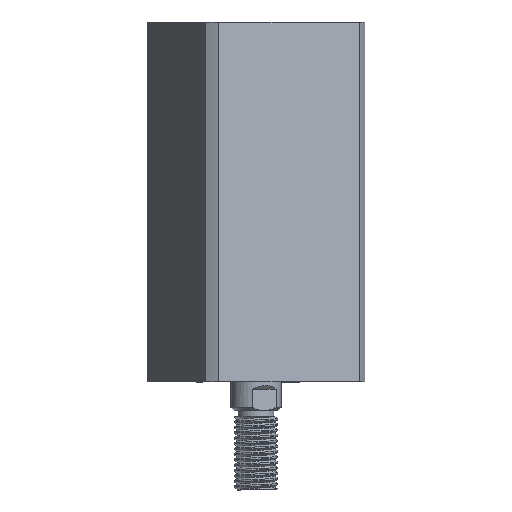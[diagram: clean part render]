
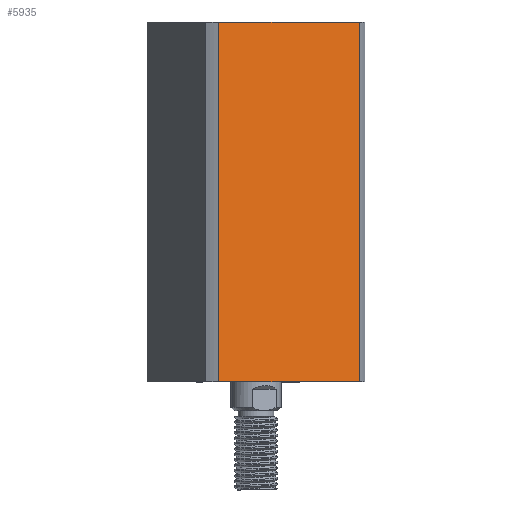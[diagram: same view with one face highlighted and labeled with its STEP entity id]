
A CAD part, left-side view. The second image highlights one B-rep face of the part: STEP entity #5935.
In plain terms, the highlighted planar face has unit normal (-0.924, -0.383, 0) as drawn and (1, 0, 0) by its records, which use the part's own axes.
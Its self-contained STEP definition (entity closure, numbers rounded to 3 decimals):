
#128 = DIRECTION ( 'NONE',  ( 0., 0., -1. ) ) ;
#196 = CARTESIAN_POINT ( 'NONE',  ( 24., 21.166, -500. ) ) ;
#302 = VERTEX_POINT ( 'NONE', #571 ) ;
#483 = DIRECTION ( 'NONE',  ( 0., 0., 1. ) ) ;
#571 = CARTESIAN_POINT ( 'NONE',  ( 24., -21.166, 0. ) ) ;
#968 = PLANE ( 'NONE',  #5829 ) ;
#1057 = VERTEX_POINT ( 'NONE', #8538 ) ;
#1756 = LINE ( 'NONE', #10483, #9621 ) ;
#1791 = DIRECTION ( 'NONE',  ( 0., -1., 0. ) ) ;
#2263 = EDGE_CURVE ( 'NONE', #1057, #2699, #10516, .T. ) ;
#2272 = EDGE_LOOP ( 'NONE', ( #6876, #8142, #10702, #5476 ) ) ;
#2699 = VERTEX_POINT ( 'NONE', #3033 ) ;
#2774 = FACE_OUTER_BOUND ( 'NONE', #2272, .T. ) ;
#3001 = DIRECTION ( 'NONE',  ( 0., 1., 0. ) ) ;
#3033 = CARTESIAN_POINT ( 'NONE',  ( 24., 21.166, 0. ) ) ;
#3300 = VECTOR ( 'NONE', #4357, 1000. ) ;
#3847 = CARTESIAN_POINT ( 'NONE',  ( 24., 24., 0. ) ) ;
#4357 = DIRECTION ( 'NONE',  ( 0., 1., 0. ) ) ;
#4733 = LINE ( 'NONE', #8504, #3300 ) ;
#5476 = ORIENTED_EDGE ( 'NONE', *, *, #5962, .F. ) ;
#5829 = AXIS2_PLACEMENT_3D ( 'NONE', #10768, #6786, #1791 ) ;
#5935 = ADVANCED_FACE ( 'NONE', ( #2774 ), #968, .F. ) ;
#5962 = EDGE_CURVE ( 'NONE', #6181, #1057, #4733, .T. ) ;
#6073 = VECTOR ( 'NONE', #3001, 1000. ) ;
#6181 = VERTEX_POINT ( 'NONE', #7441 ) ;
#6786 = DIRECTION ( 'NONE',  ( -1., 0., 0. ) ) ;
#6876 = ORIENTED_EDGE ( 'NONE', *, *, #10832, .F. ) ;
#7441 = CARTESIAN_POINT ( 'NONE',  ( 24., -21.166, 100. ) ) ;
#8142 = ORIENTED_EDGE ( 'NONE', *, *, #10280, .T. ) ;
#8266 = VECTOR ( 'NONE', #128, 1000. ) ;
#8504 = CARTESIAN_POINT ( 'NONE',  ( 24., 24., 100. ) ) ;
#8538 = CARTESIAN_POINT ( 'NONE',  ( 24., 21.166, 100. ) ) ;
#8565 = LINE ( 'NONE', #3847, #6073 ) ;
#9621 = VECTOR ( 'NONE', #483, 1000. ) ;
#10280 = EDGE_CURVE ( 'NONE', #302, #2699, #8565, .T. ) ;
#10483 = CARTESIAN_POINT ( 'NONE',  ( 24., -21.166, -500. ) ) ;
#10516 = LINE ( 'NONE', #196, #8266 ) ;
#10702 = ORIENTED_EDGE ( 'NONE', *, *, #2263, .F. ) ;
#10768 = CARTESIAN_POINT ( 'NONE',  ( 24., 24., 100. ) ) ;
#10832 = EDGE_CURVE ( 'NONE', #302, #6181, #1756, .T. ) ;
